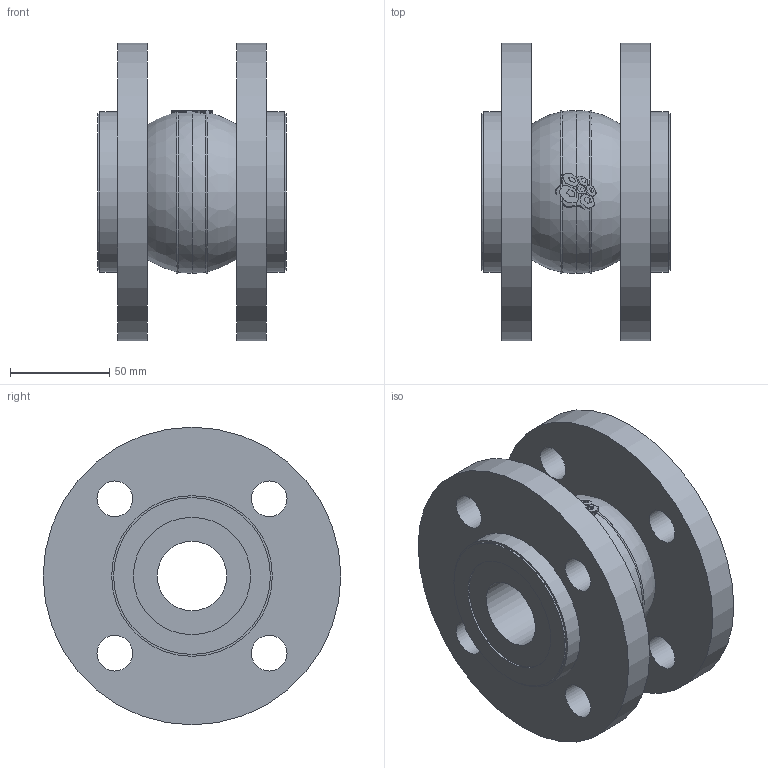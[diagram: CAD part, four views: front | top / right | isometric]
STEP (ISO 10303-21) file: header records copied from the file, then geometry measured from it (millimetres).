
FILE_DESCRIPTION(('STEP AP203'), '1');
FILE_NAME('3D_500_501-040-EPDM-FF', '', ('UNSPECIFIED'), ('UNSPECIFIED'), 'C3D Converter', 'C3D Toolkit', '');
FILE_SCHEMA(('CONFIG_CONTROL_DESIGN'));
Length unit declared in the file: millimetre
Bounding box: 95 x 150 x 150 mm (x, y, z)
Volume: 701779.2 mm3; surface area: 109485.6 mm2
Topology: 9 solids, 9 shells, 867 faces, 2541 edges, 1700 vertices
Faces by surface type: plane 839, cylinder 18, torus 10
Full cylindrical faces by diameter (mm): 18 x8, 35 x2, 59 x2, 79 x2, 81 x2, 150 x2
Entity records: 35192 total; most frequent: CARTESIAN_POINT 5081, ORIENTED_EDGE 5026, DIRECTION 4323, EDGE_CURVE 2513, LINE 2439, VECTOR 2439, VERTEX_POINT 1700, AXIS2_PLACEMENT_3D 942
